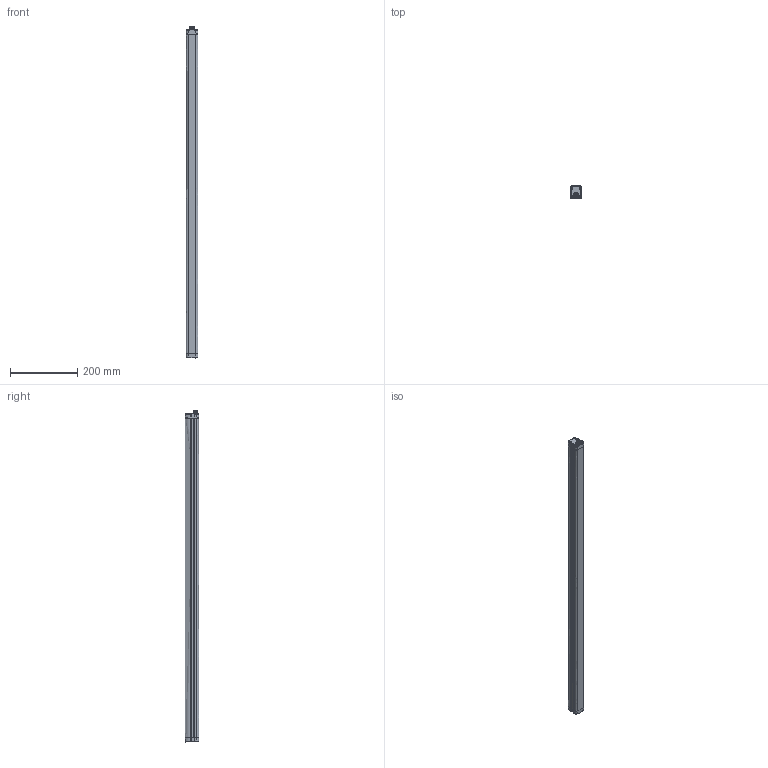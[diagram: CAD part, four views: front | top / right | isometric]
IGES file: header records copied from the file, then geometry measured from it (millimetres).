
Global section: file name: C:\Users\fguttadauro\OneDrive - Datalogic S.p.a\Desktop\AP021403_01-DSD-0977 DS2-05-07-090 _TX_.igs; native system: NX V1926; preprocessor: SIEMENS PLM Software NX 1946; date: 20220407.161045; units: millimetre
Bounding box: 35 x 40.1 x 991 mm (x, y, z)
Surface area: 193501.3 mm2 (no closed solid volume)
Topology: 0 solids, 0 shells, 740 faces, 4458 edges, 4381 vertices
Faces by surface type: bspline 740
